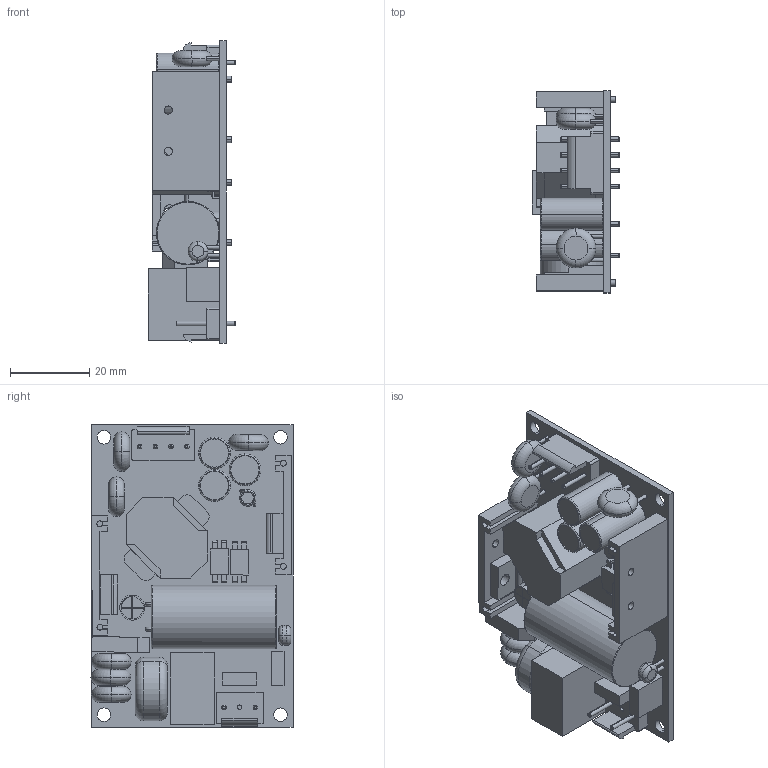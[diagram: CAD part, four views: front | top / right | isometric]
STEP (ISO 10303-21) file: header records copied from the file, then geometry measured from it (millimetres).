
FILE_DESCRIPTION (( 'STEP AP203' ), '1' );
FILE_NAME ('ECP40US.STEP', '2013-11-20T09:05:24', ( 'shifalin@msn.com' ), ( '' ), 'SwSTEP 2.0', 'SolidWorks 2010', '' );
FILE_SCHEMA (( 'CONFIG_CONTROL_DESIGN' ));
Length unit declared in the file: millimetre
Products named in the file (18): HSV 30X2X17 v1.0; Inductor; Cap-8-16; x-cap 18X11; 16X8; RM8; ECP40US; TES40 V1.0 PCB; KBP306G; Cap-16-31.5; TO-220; NTC-5mm; Cap-6.3-11; 3.96 mm Locking Header 3-2pin; 3.96 mm Locking Header 4pin; PHOTO-COUPLER; FUSE; Y-Cap
Assembly tree (28 placements, depth 2):
  ECP40US
    RM8
    Y-Cap  x6
    FUSE  x2
    16X8
    PHOTO-COUPLER  x2
    KBP306G
    TO-220  x2
    HSV 30X2X17 v1.0  x2
    NTC-5mm
    3.96 mm Locking Header 3-2pin
    Cap-8-16  x3
    Cap-6.3-11
    x-cap 18X11
    TES40 V1.0 PCB
    Cap-16-31.5
    Inductor
    3.96 mm Locking Header 4pin
Bounding box: 22 x 50.87 x 76.2 mm (x, y, z)
Volume: 32701.5 mm3; surface area: 24854.3 mm2
Topology: 30 solids, 30 shells, 597 faces, 1380 edges, 872 vertices
Faces by surface type: plane 293, cylinder 189, torus 112, bspline 3
Entity records: 16664 total; most frequent: CARTESIAN_POINT 4856, DIRECTION 2151, ORIENTED_EDGE 1906, EDGE_CURVE 953, AXIS2_PLACEMENT_3D 819, VERTEX_POINT 604, VECTOR 513, LINE 513
